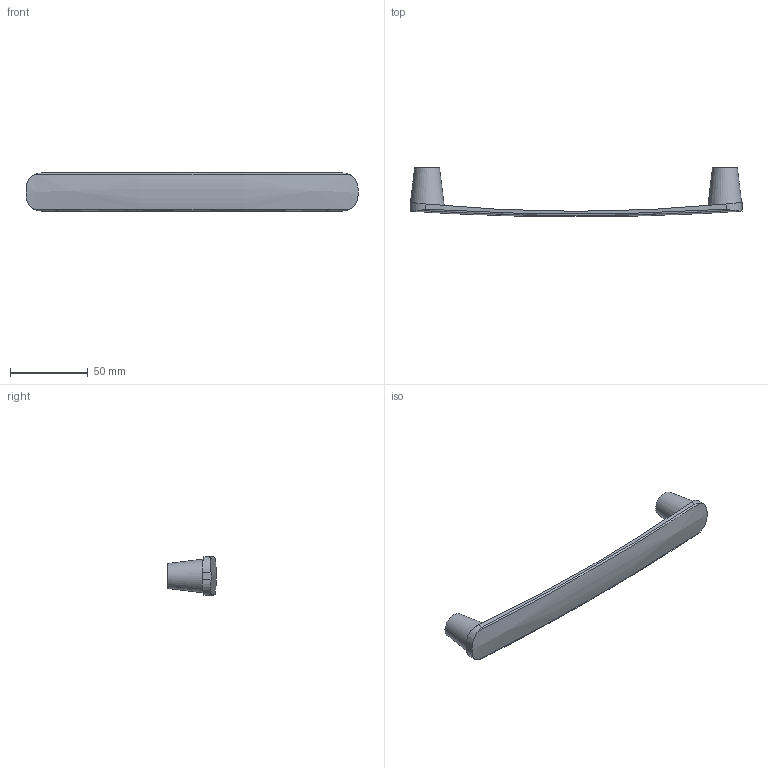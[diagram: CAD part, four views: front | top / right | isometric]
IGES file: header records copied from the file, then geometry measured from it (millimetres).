
Start section: Data from Parasolid IGES Translator 15.0.47, Copyright(c) 2006 Siemens P LM Software. All Rights Reserved.
Global section: file name: 9132311.igs; native system:  By UGS Corp.; preprocessor: XPlus GENERIC/IGES 3.0; author: Noname; organization: Noname; date: 20140122.171759; units: millimetre
Bounding box: 214 x 31.39 x 24.5 mm (x, y, z)
Surface area: 16876.3 mm2 (no closed solid volume)
Topology: 0 solids, 0 shells, 32 faces, 128 edges, 117 vertices
Faces by surface type: revolution 18, extrusion 14
